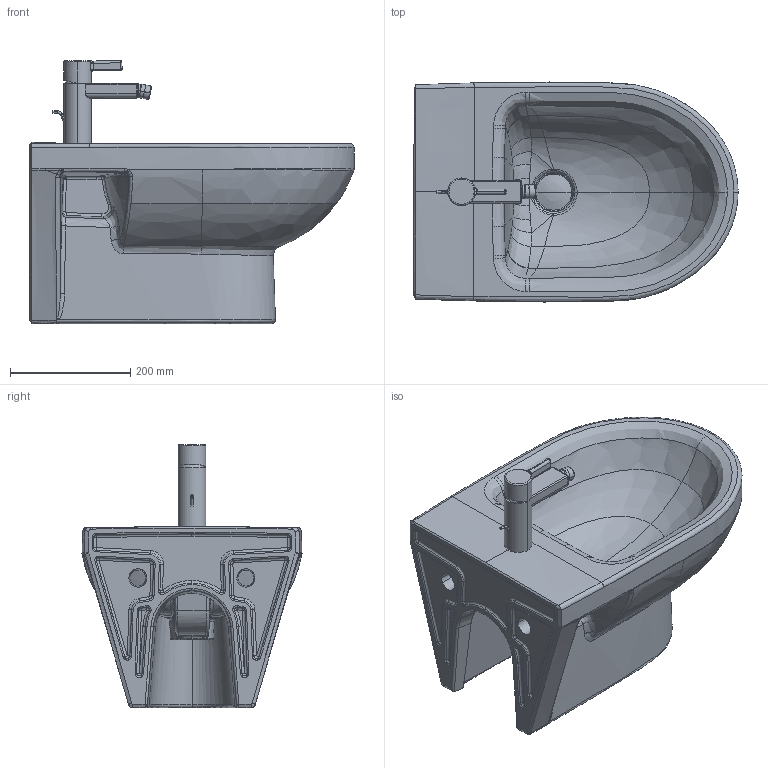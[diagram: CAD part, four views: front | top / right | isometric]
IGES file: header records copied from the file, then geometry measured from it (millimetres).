
Global section: file name: No Iges File Name specified; native system: Autodesk Inventor 2011; preprocessor: AutoDesk Inventor Iges Exporter R2011; author: Administrator; date: 20170727.105253; units: millimetre
Bounding box: 540.1 x 366.54 x 438.75 mm (x, y, z)
Volume: 16863444.8 mm3; surface area: 1065423 mm2
Topology: 8 solids, 8 shells, 735 faces, 1824 edges, 1099 vertices
Faces by surface type: bspline 424, plane 101, cylinder 78, revolution 77, torus 42, sphere 8, cone 5
